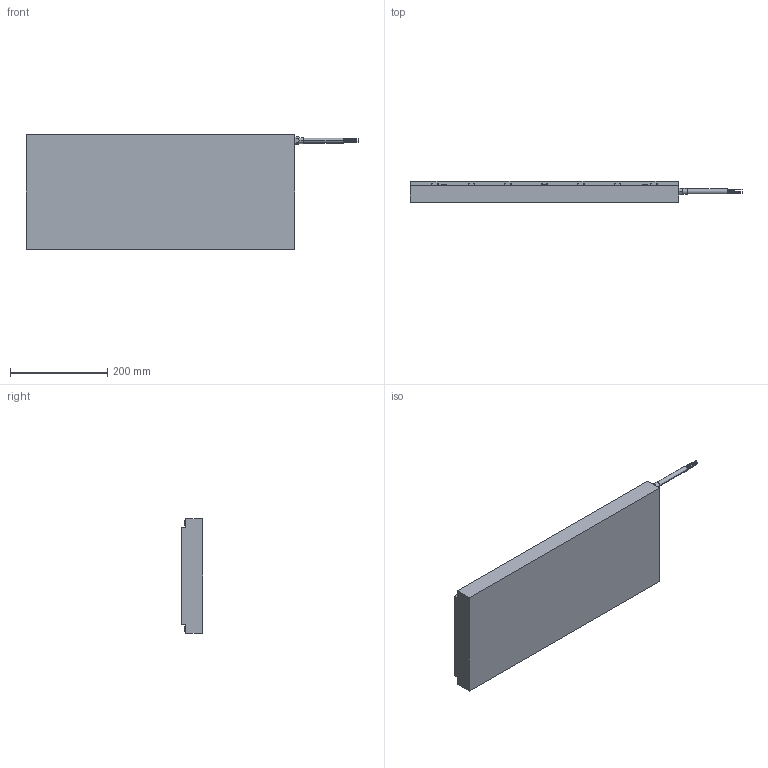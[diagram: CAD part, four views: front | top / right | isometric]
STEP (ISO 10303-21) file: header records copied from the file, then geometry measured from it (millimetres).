
FILE_DESCRIPTION((''),'2;1');
FILE_NAME('IC33_200','2010-03-09T',('brad.winesett'),('Kollmorgen'),'PRO/ENGINEER BY PARAMETRIC TECHNOLOGY CORPORATION, 2006510','PRO/ENGINEER BY PARAMETRIC TECHNOLOGY CORPORATION, 2006510','');
FILE_SCHEMA(('CONFIG_CONTROL_DESIGN'));
Length unit declared in the file: millimetre
Products named in the file (1): IC33_200
Bounding box: 682.2 x 43.3 x 235 mm (x, y, z)
Volume: 5458874.3 mm3; surface area: 399783.4 mm2
Topology: 1 solids, 43 shells, 508 faces, 1278 edges, 810 vertices
Faces by surface type: cylinder 216, plane 208, cone 84
Entity records: 14731 total; most frequent: DIRECTION 2728, CARTESIAN_POINT 2513, ORIENTED_EDGE 2220, EDGE_CURVE 1194, AXIS2_PLACEMENT_3D 1025, VERTEX_POINT 810, VECTOR 678, LINE 678
